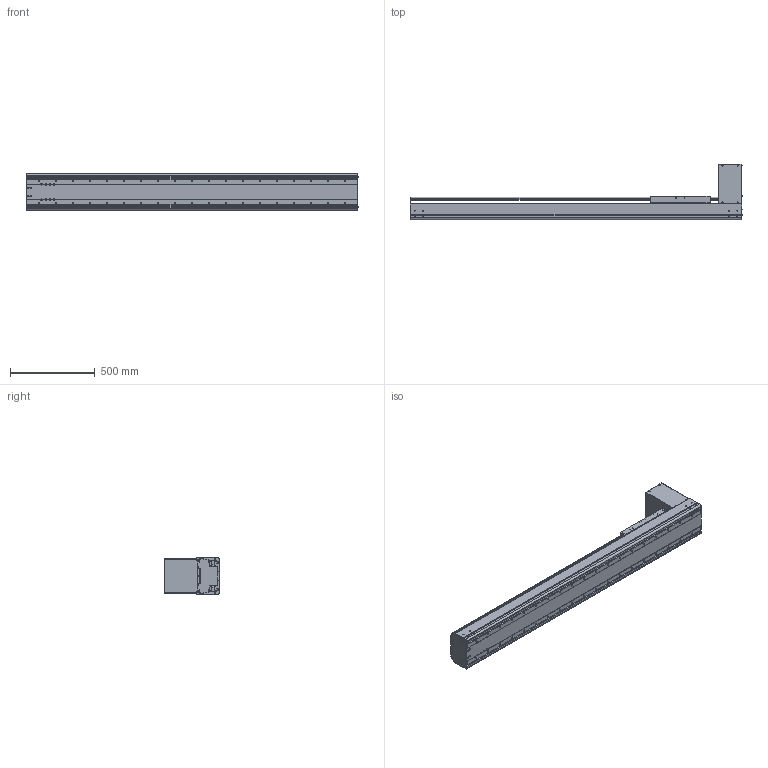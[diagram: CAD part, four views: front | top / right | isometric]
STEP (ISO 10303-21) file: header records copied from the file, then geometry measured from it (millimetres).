
FILE_DESCRIPTION((''),'2;1');
FILE_NAME('BE60J-BT-L19N-D5_IGS_PRT','2017-06-18T',(' '),(''),'PRO/ENGINEER BY PARAMETRIC TECHNOLOGY CORPORATION, 2015030','PRO/ENGINEER BY PARAMETRIC TECHNOLOGY CORPORATION, 2015030','');
FILE_SCHEMA(('CONFIG_CONTROL_DESIGN'));
Products named in the file (1): BE60J-BT-L19N-D5_IGS_PRT
Bounding box: 1954.4 x 327.5 x 214 mm (x, y, z)
Volume: 14288212.4 mm3; surface area: 4389131.6 mm2
Topology: 1 solids, 263 shells, 2200 faces, 6153 edges, 4105 vertices
Faces by surface type: cylinder 1060, plane 834, cone 210, sphere 48, torus 48
Entity records: 73056 total; most frequent: CARTESIAN_POINT 16538, DIRECTION 11851, ORIENTED_EDGE 11092, EDGE_CURVE 6006, AXIS2_PLACEMENT_3D 4471, VERTEX_POINT 4100, VECTOR 2909, LINE 2909
